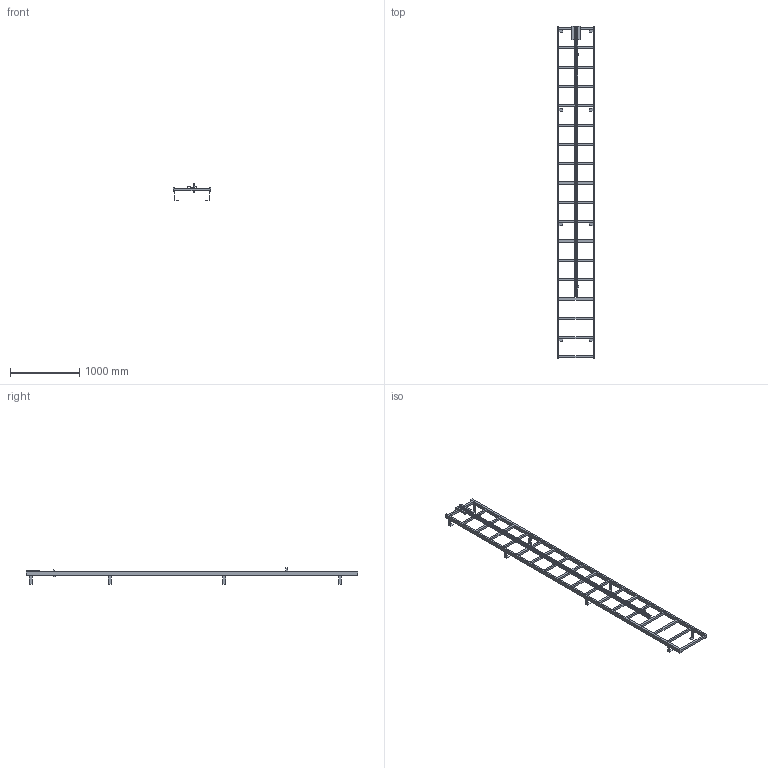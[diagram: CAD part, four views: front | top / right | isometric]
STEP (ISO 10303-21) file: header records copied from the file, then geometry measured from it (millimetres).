
FILE_DESCRIPTION((''),'2;1');
FILE_NAME('52330200','2024-12-05T09:10:54',('wep'),('HUBER SE'),'CREO PARAMETRIC BY PTC INC, 2022162','CREO PARAMETRIC BY PTC INC, 2022162','');
FILE_SCHEMA(('AUTOMOTIVE_DESIGN { 1 0 10303 214 1 1 1 1 }'));
Length unit declared in the file: millimetre
Products named in the file (1): 52330200
Bounding box: 550 x 4810 x 239 mm (x, y, z)
Volume: 22507328 mm3; surface area: 3827407.3 mm2
Topology: 2 solids, 2 shells, 308 faces, 894 edges, 586 vertices
Faces by surface type: plane 308
Entity records: 10653 total; most frequent: CARTESIAN_POINT 1790, ORIENTED_EDGE 1788, DIRECTION 1510, VECTOR 894, LINE 894, EDGE_CURVE 894, VERTEX_POINT 586, EDGE_LOOP 398
